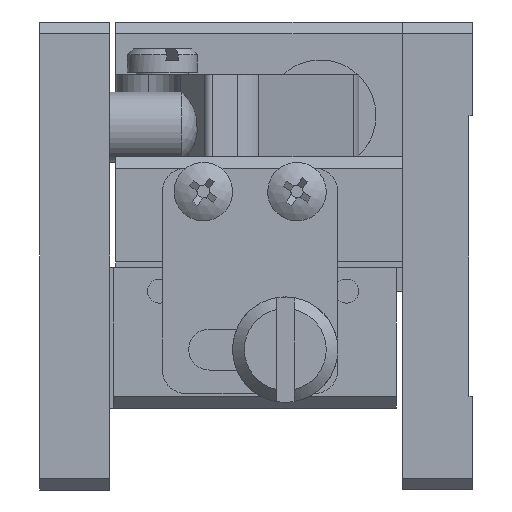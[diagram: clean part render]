
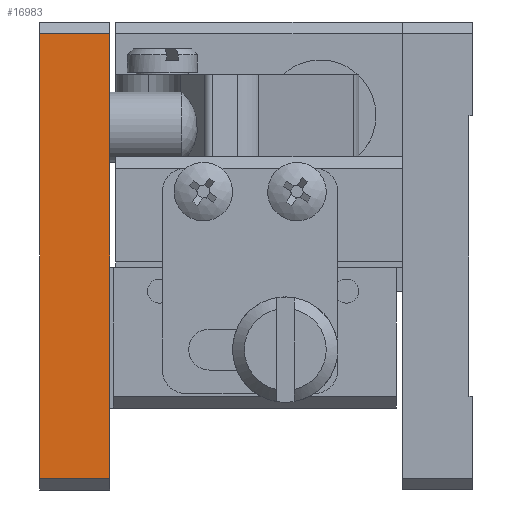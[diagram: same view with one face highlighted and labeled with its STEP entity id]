
A CAD part, left-side view. The second image highlights one B-rep face of the part: STEP entity #16983.
In plain terms, the highlighted planar face has unit normal (-1, 0, 0).
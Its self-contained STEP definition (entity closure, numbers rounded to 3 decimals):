
#143 = EDGE_CURVE ( 'NONE', #13776, #18056, #5736, .T. ) ;
#438 = CARTESIAN_POINT ( 'NONE',  ( -20., 37., 19. ) ) ;
#1019 = CARTESIAN_POINT ( 'NONE',  ( -20., 31., -20. ) ) ;
#5016 = LINE ( 'NONE', #26208, #25139 ) ;
#5736 = LINE ( 'NONE', #1019, #21922 ) ;
#6373 = DIRECTION ( 'NONE',  ( 0., 0., 1. ) ) ;
#6742 = PLANE ( 'NONE',  #21028 ) ;
#6776 = LINE ( 'NONE', #17177, #13272 ) ;
#7452 = VERTEX_POINT ( 'NONE', #25255 ) ;
#7871 = EDGE_CURVE ( 'NONE', #7452, #23730, #6776, .T. ) ;
#9293 = DIRECTION ( 'NONE',  ( 0., 1., 0. ) ) ;
#9374 = DIRECTION ( 'NONE',  ( 1., 0., 0. ) ) ;
#12055 = CARTESIAN_POINT ( 'NONE',  ( -20., 37., 19. ) ) ;
#12711 = EDGE_CURVE ( 'NONE', #18056, #23730, #15260, .T. ) ;
#12740 = EDGE_CURVE ( 'NONE', #7452, #13776, #5016, .T. ) ;
#12769 = CARTESIAN_POINT ( 'NONE',  ( -20., 31., -19. ) ) ;
#13272 = VECTOR ( 'NONE', #6373, 1000. ) ;
#13756 = ORIENTED_EDGE ( 'NONE', *, *, #7871, .F. ) ;
#13776 = VERTEX_POINT ( 'NONE', #12769 ) ;
#15201 = CARTESIAN_POINT ( 'NONE',  ( -20., 37., -20. ) ) ;
#15260 = LINE ( 'NONE', #438, #22073 ) ;
#16983 = ADVANCED_FACE ( 'NONE', ( #25720 ), #6742, .F. ) ;
#17177 = CARTESIAN_POINT ( 'NONE',  ( -20., 37., -20. ) ) ;
#18056 = VERTEX_POINT ( 'NONE', #19775 ) ;
#18452 = DIRECTION ( 'NONE',  ( 0., -1., 0. ) ) ;
#19775 = CARTESIAN_POINT ( 'NONE',  ( -20., 31., 19. ) ) ;
#19915 = DIRECTION ( 'NONE',  ( 0., 0., -1. ) ) ;
#21028 = AXIS2_PLACEMENT_3D ( 'NONE', #15201, #9374, #19915 ) ;
#21922 = VECTOR ( 'NONE', #22514, 1000. ) ;
#22073 = VECTOR ( 'NONE', #9293, 1000. ) ;
#22289 = ORIENTED_EDGE ( 'NONE', *, *, #12711, .T. ) ;
#22514 = DIRECTION ( 'NONE',  ( 0., 0., 1. ) ) ;
#23730 = VERTEX_POINT ( 'NONE', #12055 ) ;
#23905 = ORIENTED_EDGE ( 'NONE', *, *, #143, .T. ) ;
#25019 = ORIENTED_EDGE ( 'NONE', *, *, #12740, .T. ) ;
#25139 = VECTOR ( 'NONE', #18452, 1000. ) ;
#25255 = CARTESIAN_POINT ( 'NONE',  ( -20., 37., -19. ) ) ;
#25720 = FACE_OUTER_BOUND ( 'NONE', #27215, .T. ) ;
#26208 = CARTESIAN_POINT ( 'NONE',  ( -20., 37., -19. ) ) ;
#27215 = EDGE_LOOP ( 'NONE', ( #13756, #25019, #23905, #22289 ) ) ;
